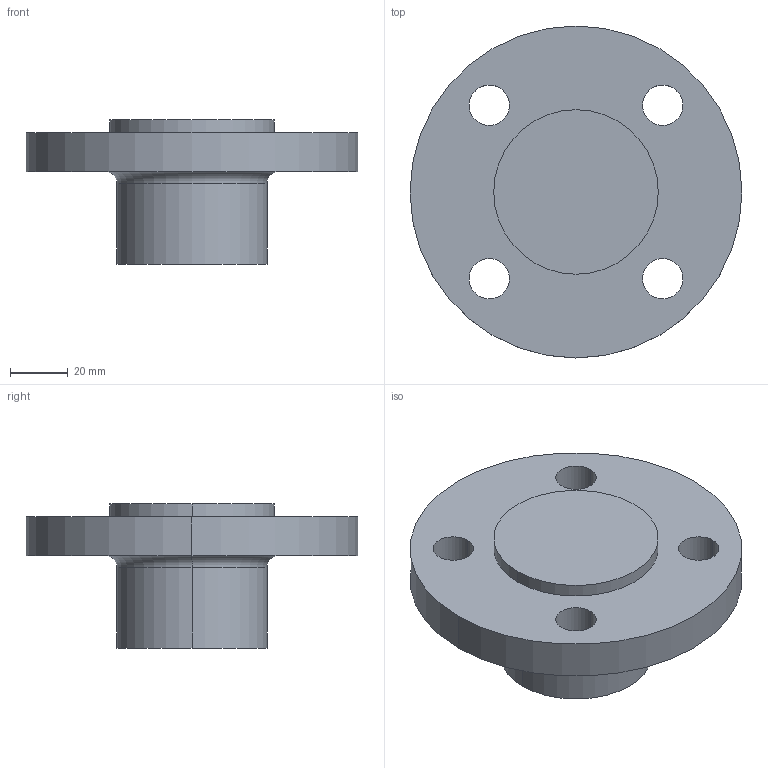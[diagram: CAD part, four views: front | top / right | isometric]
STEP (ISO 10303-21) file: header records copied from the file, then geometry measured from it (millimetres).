
FILE_DESCRIPTION (( 'STEP AP214' ), '1' );
FILE_NAME ('PN40 DN25 Type 21(i) - Type E Face.STEP', '2018-12-29T20:20:34', ( '' ), ( '' ), 'SwSTEP 2.0', 'SolidWorks 2019', '' );
FILE_SCHEMA (( 'AUTOMOTIVE_DESIGN' ));
Length unit declared in the file: millimetre
Products named in the file (1): PN40 DN25 Type 21(i) - Type E Face
Bounding box: 115 x 115 x 50 mm (x, y, z)
Volume: 211932.4 mm3; surface area: 32554.7 mm2
Topology: 1 solids, 1 shells, 20 faces, 46 edges, 30 vertices
Faces by surface type: cylinder 14, plane 4, torus 2
Entity records: 636 total; most frequent: DIRECTION 120, CARTESIAN_POINT 97, ORIENTED_EDGE 92, AXIS2_PLACEMENT_3D 53, EDGE_CURVE 46, CIRCLE 32, VERTEX_POINT 30, EDGE_LOOP 30
